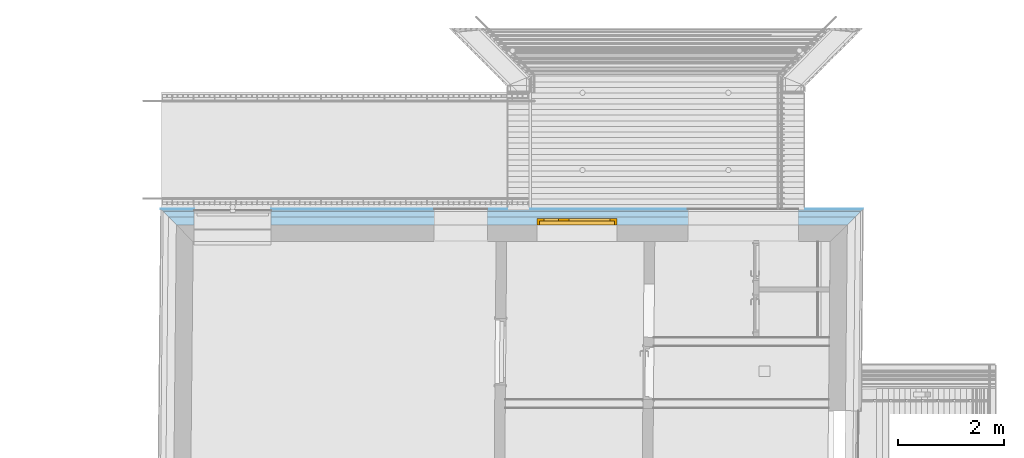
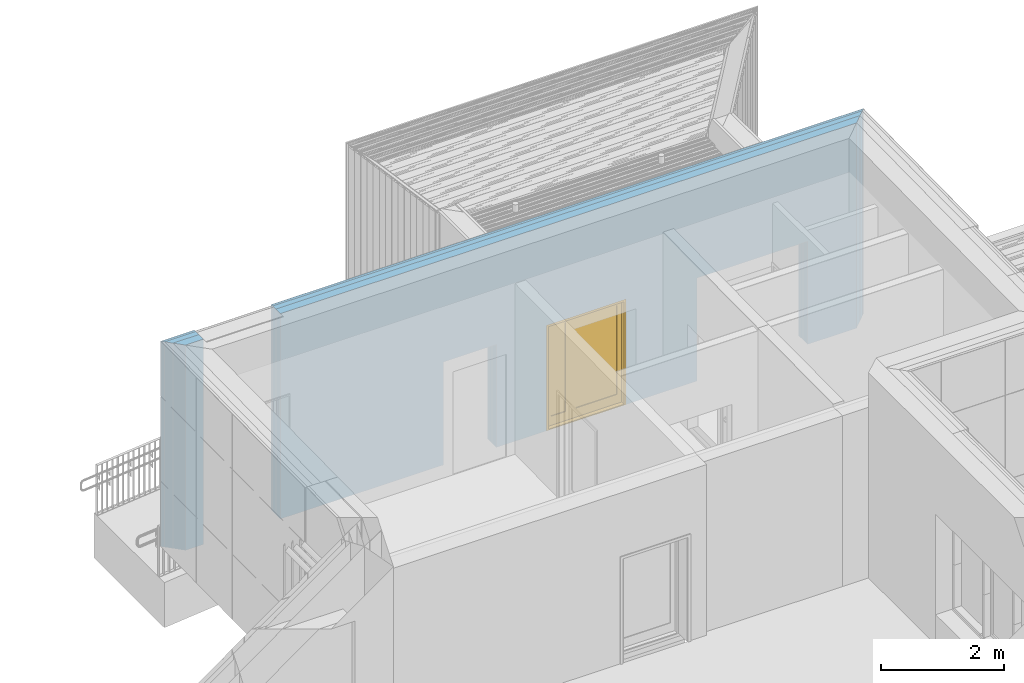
# One storey, part 133 of 418: 1 door, 15 openings, 1 element without a shape of its own, plus 4 elements that do not belong to this part.
"""IFC2X3 building model written with IfcOpenShell, lengths in millimetres."""

from ifc_helpers import new_model, entity, si_unit, converted_unit, derived_unit, money_unit, direction, frame, origin_with_axes, origin_2d_with_axis, place, context, subcontext, project, spatial, polyline, rectangle, outline, extrude, open_shell, faceted_brep, surface_model, material, type_object, element, fill, aggregate, save


model = new_model("IFC2X3")

# Units and contexts
model_context = context("Model", 3, precision=0.01, world=origin_with_axes(), true_north=direction((0.0, 1.0)))
body_context = subcontext(model_context, "Body", "Model", "MODEL_VIEW")
ifc_project = project(units=[si_unit("LENGTHUNIT", "METRE", prefix="MILLI"), si_unit("AREAUNIT", "SQUARE_METRE"), si_unit("VOLUMEUNIT", "CUBIC_METRE"), converted_unit("PLANEANGLEUNIT", "DEGREE", entity("IfcPlaneAngleMeasure", 0.0174532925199), si_unit("PLANEANGLEUNIT", "RADIAN"), dimensions=[0, 0, 0, 0, 0, 0, 0]), si_unit("SOLIDANGLEUNIT", "STERADIAN"), money_unit("EUR"), converted_unit("TIMEUNIT", "Year", entity("IfcTimeMeasure", 31556926.0), si_unit("TIMEUNIT", "SECOND"), dimensions=[0, 0, 1, 0, 0, 0, 0]), si_unit("MASSUNIT", "GRAM", prefix="KILO"), si_unit("THERMODYNAMICTEMPERATUREUNIT", "DEGREE_CELSIUS"), si_unit("LUMINOUSINTENSITYUNIT", "LUMEN"), si_unit("ENERGYUNIT", "JOULE", prefix="MEGA"), derived_unit("THERMALCONDUCTANCEUNIT", [(si_unit("POWERUNIT", "WATT"), 1), (si_unit("LENGTHUNIT", "METRE"), -1), (si_unit("THERMODYNAMICTEMPERATUREUNIT", "KELVIN"), -1)]), derived_unit("SPECIFICHEATCAPACITYUNIT", [(si_unit("ENERGYUNIT", "JOULE"), 1), (si_unit("MASSUNIT", "GRAM", prefix="KILO"), -1), (si_unit("THERMODYNAMICTEMPERATUREUNIT", "KELVIN"), -1)]), derived_unit("MASSDENSITYUNIT", [(si_unit("MASSUNIT", "GRAM", prefix="KILO"), 1), (si_unit("VOLUMEUNIT", "CUBIC_METRE"), -1)])], contexts=[model_context])

# Site, building, storey
site_placement = place(None, origin_with_axes())
site = spatial("IfcSite", under=ifc_project, at=site_placement, Name="Paldiski mnt 245/1, Tallinn, Harjumaa", CompositionType="COMPLEX")
building_placement = place(site_placement, origin_with_axes())
building = spatial("IfcBuilding", under=site, at=building_placement, Name="RKAS Hoone üldnimetus (kasutust iseloomustav) -> IFC Project Manager -> SOLIBRI", CompositionType="ELEMENT")
storey_placement = place(building_placement, origin_with_axes())
storey = spatial("IfcBuildingStorey", under=building, at=storey_placement, Name="Esimene korrus", CompositionType="ELEMENT", Elevation=0.0)

# Door
door_style = type_object("IfcDoorStyle", Name="Double Door Asymmetric 23", ConstructionType="NOTDEFINED", OperationType="DOUBLE_DOOR_SINGLE_SWING", ParameterTakesPrecedence=False, Sizeable=False)
wall_placement = place(storey_placement, frame((-59646.0974385, 36089.8287244, 0.0), z_axis=(0.0, 0.0, 1.0), x_axis=(1.0, 0.0, 0.0)))
opening_13_placement = place(wall_placement, frame((7546.97652884, -1.84741111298e-10, 0.0), z_axis=(0.0, 0.0, 1.0), x_axis=(1.0, 0.0, 0.0)))
door_placement = place(opening_13_placement, frame((-750.0, 0.0, 0.0), z_axis=(0.0, 0.0, 1.0), x_axis=(1.0, 0.0, 0.0)))
door = element("IfcDoor", 1, at=door_placement, inside=storey, type_object=door_style, Name="VU-05v", ObjectType="DOOR", OverallHeight=2100.0, OverallWidth=1500.0, context=body_context, shape_type="SurfaceModel", body=[
    faceted_brep([(1460.0, 1.98951966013e-10, 0.0), (1460.0, 75.0000000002, 0.0), (1460.0, 75.0000000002, 20.0), (1460.0, 1.98951966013e-10, 20.0), (40.0, 1.63424829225e-10, 0.0), (40.0, 75.0000000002, 0.0), (28.0, 75.0000000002, 0.0), (1472.0, 75.0000000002, 0.0), (1472.0, 75.0000000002, 20.0), (28.0, 75.0000000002, 20.0), (40.0, 75.0000000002, 20.0), (40.0, 1.63424829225e-10, 20.0)], [[[0, 1, 2, 3]], [[0, 4, 5, 6, 7, 1]], [[1, 7, 8, 2]], [[3, 2, 8, 9, 10, 11]], [[4, 0, 3, 11]], [[5, 4, 11, 10]], [[6, 5, 10, 9]], [[7, 6, 9, 8]]]),
    faceted_brep([(40.0, 75.0000000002, 0.0), (40.0, 75.0000000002, 2060.0), (40.0, 1.63424829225e-10, 2060.0), (40.0, 1.63424829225e-10, 0.0), (28.0, 75.0000000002, 2060.0), (28.0, 75.0000000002, 0.0), (28.0, 115.0, 2060.0), (0.0, 115.0, 2060.0), (0.0, 1.63424829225e-10, 2060.0), (0.0, 1.63424829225e-10, 0.0), (0.0, 115.0, 0.0), (28.0, 115.0, 0.0)], [[[0, 1, 2, 3]], [[4, 1, 0, 5]], [[4, 6, 7, 8, 2, 1]], [[3, 2, 8, 9]], [[5, 0, 3, 9, 10, 11]], [[6, 4, 5, 11]], [[6, 11, 10, 7]], [[10, 9, 8, 7]]]),
    faceted_brep([(1472.0, 75.0000000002, 2060.0), (1460.0, 75.0000000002, 2060.0), (1460.0, 1.98951966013e-10, 2060.0), (1500.0, 1.98951966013e-10, 2060.0), (1500.0, 115.0, 2060.0), (1472.0, 115.0, 2060.0), (1472.0, 75.0000000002, 0.0), (1460.0, 75.0000000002, 0.0), (1460.0, 1.98951966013e-10, 0.0), (1500.0, 1.98951966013e-10, 0.0), (1500.0, 115.0, 0.0), (1472.0, 115.0, 0.0)], [[[0, 1, 2, 3, 4, 5]], [[1, 0, 6, 7]], [[1, 7, 8, 2]], [[3, 2, 8, 9]], [[4, 3, 9, 10]], [[11, 5, 4, 10]], [[0, 5, 11, 6]], [[6, 11, 10, 9, 8, 7]]]),
    faceted_brep([(28.0, 115.0, 2072.0), (28.0, 115.0, 2060.0), (0.0, 115.0, 2060.0), (0.0, 115.0, 2100.0), (1500.0, 115.0, 2100.0), (1500.0, 115.0, 2060.0), (1472.0, 115.0, 2060.0), (1472.0, 115.0, 2072.0), (28.0, 75.0000000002, 2072.0), (28.0, 75.0000000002, 2060.0), (40.0, 75.0000000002, 2060.0), (40.0, 1.63424829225e-10, 2060.0), (0.0, 1.63424829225e-10, 2060.0), (0.0, 1.63424829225e-10, 2100.0), (1500.0, 1.98951966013e-10, 2100.0), (1500.0, 1.98951966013e-10, 2060.0), (1472.0, 75.0000000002, 2060.0), (1460.0, 1.98951966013e-10, 2060.0), (1460.0, 75.0000000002, 2060.0), (1472.0, 75.0000000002, 2072.0)], [[[0, 1, 2, 3, 4, 5, 6, 7]], [[1, 0, 8, 9]], [[9, 10, 11, 12, 2, 1]], [[2, 12, 13, 3]], [[3, 13, 14, 4]], [[4, 14, 15, 5]], [[16, 6, 5, 15, 17, 18]], [[7, 6, 16, 19]], [[0, 7, 19, 8]], [[16, 18, 10, 9, 8, 19]], [[10, 18, 17, 11]], [[17, 15, 14, 13, 12, 11]]]),
    faceted_brep([(1472.0, 115.0, 200.0), (1472.0, 75.0000000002, 200.0), (1372.0, 75.0000000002, 200.0), (1372.0, 115.0, 200.0), (1472.0, 115.0, 1972.0), (1472.0, 75.0000000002, 1972.0), (1372.0, 75.0000000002, 1972.0), (1372.0, 115.0, 1972.0)], [[[0, 1, 2, 3]], [[4, 5, 1, 0]], [[1, 5, 6, 2]], [[3, 2, 6, 7]], [[0, 3, 7, 4]], [[7, 6, 5, 4]]]),
    faceted_brep([(500.0, 115.0, 200.0), (500.0, 75.0000000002, 200.0), (500.0, 75.0000000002, 1972.0), (500.0, 115.0, 1972.0), (600.0, 115.0, 200.0), (600.0, 75.0000000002, 200.0), (600.0, 75.0000000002, 1972.0), (600.0, 115.0, 1972.0)], [[[0, 1, 2, 3]], [[4, 5, 1, 0]], [[1, 5, 6, 2]], [[3, 2, 6, 7]], [[0, 3, 7, 4]], [[7, 6, 5, 4]]]),
    faceted_brep([(1472.0, 115.0, 0.0), (1472.0, 75.0000000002, 0.0), (500.0, 75.0000000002, 0.0), (500.0, 115.0, 0.0), (1472.0, 115.0, 200.0), (1472.0, 75.0000000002, 200.0), (1372.0, 75.0000000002, 200.0), (600.0, 75.0000000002, 200.0), (500.0, 75.0000000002, 200.0), (500.0, 115.0, 200.0), (600.0, 115.0, 200.0), (1372.0, 115.0, 200.0)], [[[0, 1, 2, 3]], [[4, 5, 1, 0]], [[1, 5, 6, 7, 8, 2]], [[3, 2, 8, 9]], [[0, 3, 9, 10, 11, 4]], [[11, 6, 5, 4]], [[10, 7, 6, 11]], [[9, 8, 7, 10]]]),
    faceted_brep([(1472.0, 115.0, 2072.0), (1472.0, 75.0000000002, 2072.0), (1472.0, 75.0000000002, 1972.0), (1472.0, 115.0, 1972.0), (500.0, 115.0, 2072.0), (500.0, 75.0000000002, 2072.0), (500.0, 75.0000000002, 1972.0), (600.0, 75.0000000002, 1972.0), (1372.0, 75.0000000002, 1972.0), (1372.0, 115.0, 1972.0), (600.0, 115.0, 1972.0), (500.0, 115.0, 1972.0)], [[[0, 1, 2, 3]], [[4, 5, 1, 0]], [[1, 5, 6, 7, 8, 2]], [[3, 2, 8, 9]], [[0, 3, 9, 10, 11, 4]], [[11, 6, 5, 4]], [[10, 7, 6, 11]], [[9, 8, 7, 10]]]),
    surface_model("IfcShellBasedSurfaceModel", [(1372.0, 101.0, 200.0), (600.0, 101.0, 200.0), (600.0, 101.0, 1972.0), (1372.0, 101.0, 1972.0)], [open_shell([[[0, 1, 2, 3]]])]),
    surface_model("IfcShellBasedSurfaceModel", [(1372.0, 89.0000000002, 200.0), (1372.0, 89.0000000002, 1972.0), (600.0, 89.0000000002, 1972.0), (600.0, 89.0000000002, 200.0)], [open_shell([[[0, 1, 2, 3]]])]),
    faceted_brep([(28.0, 115.0, 200.0), (128.0, 115.0, 200.0), (128.0, 75.0000000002, 200.0), (28.0, 75.0000000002, 200.0), (28.0, 115.0, 1972.0), (128.0, 115.0, 1972.0), (128.0, 75.0000000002, 1972.0), (28.0, 75.0000000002, 1972.0)], [[[0, 1, 2, 3]], [[0, 4, 5, 1]], [[1, 5, 6, 2]], [[3, 2, 6, 7]], [[4, 0, 3, 7]], [[5, 4, 7, 6]]]),
    faceted_brep([(500.0, 115.0, 200.0), (500.0, 115.0, 1972.0), (500.0, 75.0000000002, 1972.0), (500.0, 75.0000000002, 200.0), (400.0, 115.0, 200.0), (400.0, 115.0, 1972.0), (400.0, 75.0000000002, 1972.0), (400.0, 75.0000000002, 200.0)], [[[0, 1, 2, 3]], [[0, 4, 5, 1]], [[1, 5, 6, 2]], [[3, 2, 6, 7]], [[4, 0, 3, 7]], [[5, 4, 7, 6]]]),
    faceted_brep([(28.0, 115.0, 0.0), (500.0, 115.0, 0.0), (500.0, 75.0000000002, 0.0), (28.0, 75.0000000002, 0.0), (28.0, 115.0, 200.0), (128.0, 115.0, 200.0), (400.0, 115.0, 200.0), (500.0, 115.0, 200.0), (500.0, 75.0000000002, 200.0), (400.0, 75.0000000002, 200.0), (128.0, 75.0000000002, 200.0), (28.0, 75.0000000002, 200.0)], [[[0, 1, 2, 3]], [[0, 4, 5, 6, 7, 1]], [[1, 7, 8, 2]], [[3, 2, 8, 9, 10, 11]], [[4, 0, 3, 11]], [[5, 4, 11, 10]], [[6, 5, 10, 9]], [[7, 6, 9, 8]]]),
    faceted_brep([(28.0, 115.0, 2072.0), (28.0, 115.0, 1972.0), (28.0, 75.0000000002, 1972.0), (28.0, 75.0000000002, 2072.0), (500.0, 115.0, 2072.0), (500.0, 115.0, 1972.0), (400.0, 115.0, 1972.0), (128.0, 115.0, 1972.0), (128.0, 75.0000000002, 1972.0), (400.0, 75.0000000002, 1972.0), (500.0, 75.0000000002, 1972.0), (500.0, 75.0000000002, 2072.0)], [[[0, 1, 2, 3]], [[0, 4, 5, 6, 7, 1]], [[1, 7, 8, 2]], [[3, 2, 8, 9, 10, 11]], [[4, 0, 3, 11]], [[5, 4, 11, 10]], [[6, 5, 10, 9]], [[7, 6, 9, 8]]]),
    surface_model("IfcShellBasedSurfaceModel", [(128.0, 101.0, 200.0), (128.0, 101.0, 1972.0), (400.0, 101.0, 1972.0), (400.0, 101.0, 200.0)], [open_shell([[[0, 1, 2, 3]]])]),
    surface_model("IfcShellBasedSurfaceModel", [(128.0, 89.0000000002, 200.0), (400.0, 89.0000000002, 200.0), (400.0, 89.0000000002, 1972.0), (128.0, 89.0000000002, 1972.0)], [open_shell([[[0, 1, 2, 3]]])]),
])

# Wall, openings
wall_type = type_object("IfcWallType", Name="VS-03C_uued_kihid 300", PredefinedType="NOTDEFINED")
wall = element("IfcWall", 2, at=wall_placement, inside=storey, type_object=wall_type, Name="VS-03")
opening_1_placement = place(wall_placement, frame((2986.7901126, 0.0, 0.0), z_axis=(0.0, 0.0, 1.0), x_axis=(1.0, 0.0, 0.0)))
element("IfcOpeningElement", 3, at=opening_1_placement, cuts=wall, Name="Cembrit fassaadiplaadi vuuk", context=body_context, shape_type="SweptSolid", body=[
    extrude(outline(polyline([(-4.0, 0.0), (4.0, 0.0), (4.0, 4090.0), (-4.0, 4090.0), (-4.0, 0.0)])), frame((0.0, 292.0, 0.0), z_axis=(0.0, -1.0, 0.0), x_axis=(1.0, 0.0, 0.0)), (0.0, 0.0, -1.0), 308.0),
])
opening_2_placement = place(wall_placement, frame((4186.7901126, 0.0, 0.0), z_axis=(0.0, 0.0, 1.0), x_axis=(1.0, 0.0, 0.0)))
element("IfcOpeningElement", 4, at=opening_2_placement, cuts=wall, Name="Cembrit fassaadiplaadi vuuk", context=body_context, shape_type="SweptSolid", body=[
    extrude(outline(polyline([(-4.0, 0.0), (4.0, 0.0), (4.0, 4090.0), (-4.0, 4090.0), (-4.0, 0.0)])), frame((0.0, 292.0, 0.0), z_axis=(0.0, -1.0, 0.0), x_axis=(1.0, 0.0, 0.0)), (0.0, 0.0, -1.0), 308.0),
])
opening_3_placement = place(wall_placement, frame((5386.7901126, -1.27897692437e-10, 0.0), z_axis=(0.0, 0.0, 1.0), x_axis=(1.0, 0.0, 0.0)))
element("IfcOpeningElement", 5, at=opening_3_placement, cuts=wall, Name="Cembrit fassaadiplaadi vuuk", context=body_context, shape_type="SweptSolid", body=[
    extrude(outline(polyline([(-4.0, 0.0), (4.0, 0.0), (4.0, 4090.0), (-4.0, 4090.0), (-4.0, 0.0)])), frame((0.0, 292.0, 0.0), z_axis=(0.0, -1.0, 0.0), x_axis=(1.0, 0.0, 0.0)), (0.0, 0.0, -1.0), 308.0),
])
opening_4_placement = place(wall_placement, frame((6586.7901126, -1.56319401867e-10, 0.0), z_axis=(0.0, 0.0, 1.0), x_axis=(1.0, 0.0, 0.0)))
element("IfcOpeningElement", 6, at=opening_4_placement, cuts=wall, Name="Cembrit fassaadiplaadi vuuk", context=body_context, shape_type="SweptSolid", body=[
    extrude(outline(polyline([(-4.0, 0.0), (4.0, 0.0), (4.0, 4090.0), (-4.0, 4090.0), (-4.0, 0.0)])), frame((0.0, 292.0, 0.0), z_axis=(0.0, -1.0, 0.0), x_axis=(1.0, 0.0, 0.0)), (0.0, 0.0, -1.0), 308.0),
])
opening_5_placement = place(wall_placement, frame((7786.7901126, -1.84741111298e-10, 0.0), z_axis=(0.0, 0.0, 1.0), x_axis=(1.0, 0.0, 0.0)))
element("IfcOpeningElement", 7, at=opening_5_placement, cuts=wall, Name="Cembrit fassaadiplaadi vuuk", context=body_context, shape_type="SweptSolid", body=[
    extrude(outline(polyline([(-4.0, 0.0), (4.0, 0.0), (4.0, 4090.0), (-4.0, 4090.0), (-4.0, 0.0)])), frame((0.0, 292.0, 0.0), z_axis=(0.0, -1.0, 0.0), x_axis=(1.0, 0.0, 0.0)), (0.0, 0.0, -1.0), 308.0),
])
opening_6_placement = place(wall_placement, frame((8986.7901126, -2.20268248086e-10, 0.0), z_axis=(0.0, 0.0, 1.0), x_axis=(1.0, 0.0, 0.0)))
element("IfcOpeningElement", 8, at=opening_6_placement, cuts=wall, Name="Cembrit fassaadiplaadi vuuk", context=body_context, shape_type="SweptSolid", body=[
    extrude(outline(polyline([(-4.0, 0.0), (4.0, 0.0), (4.0, 4090.0), (-4.0, 4090.0), (-4.0, 0.0)])), frame((0.0, 292.0, 0.0), z_axis=(0.0, -1.0, 0.0), x_axis=(1.0, 0.0, 0.0)), (0.0, 0.0, -1.0), 308.0),
])
opening_7_placement = place(wall_placement, frame((10186.7901126, -2.48689957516e-10, 0.0), z_axis=(0.0, 0.0, 1.0), x_axis=(1.0, 0.0, 0.0)))
element("IfcOpeningElement", 9, at=opening_7_placement, cuts=wall, Name="Cembrit fassaadiplaadi vuuk", context=body_context, shape_type="SweptSolid", body=[
    extrude(outline(polyline([(-4.0, 0.0), (4.0, 0.0), (4.0, 4090.0), (-4.0, 4090.0), (-4.0, 0.0)])), frame((0.0, 292.0, 0.0), z_axis=(0.0, -1.0, 0.0), x_axis=(1.0, 0.0, 0.0)), (0.0, 0.0, -1.0), 308.0),
])
opening_8_placement = place(wall_placement, frame((11386.7901126, -2.77111666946e-10, 0.0), z_axis=(0.0, 0.0, 1.0), x_axis=(1.0, 0.0, 0.0)))
element("IfcOpeningElement", 10, at=opening_8_placement, cuts=wall, Name="Cembrit fassaadiplaadi vuuk", context=body_context, shape_type="SweptSolid", body=[
    extrude(outline(polyline([(-4.0, 0.0), (4.0, 0.0), (4.0, 4090.0), (-4.0, 4090.0), (-4.0, 0.0)])), frame((0.0, 292.0, 0.0), z_axis=(0.0, -1.0, 0.0), x_axis=(1.0, 0.0, 0.0)), (0.0, 0.0, -1.0), 308.0),
])
opening_9_placement = place(wall_placement, frame((12586.7901126, -3.05533376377e-10, 0.0), z_axis=(0.0, 0.0, 1.0), x_axis=(1.0, 0.0, 0.0)))
element("IfcOpeningElement", 11, at=opening_9_placement, cuts=wall, Name="Cembrit fassaadiplaadi vuuk", context=body_context, shape_type="SweptSolid", body=[
    extrude(outline(polyline([(-4.0, 0.0), (4.0, 0.0), (4.0, 4090.0), (-4.0, 4090.0), (-4.0, 0.0)])), frame((0.0, 292.0, 0.0), z_axis=(0.0, -1.0, 0.0), x_axis=(1.0, 0.0, 0.0)), (0.0, 0.0, -1.0), 308.0),
])
opening_10_placement = place(wall_placement, frame((6323.34573533, -1.56319401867e-10, 1298.0), z_axis=(0.0, 0.0, 1.0), x_axis=(1.0, 0.0, 0.0)))
element("IfcOpeningElement", 12, at=opening_10_placement, cuts=wall, Name="Cembrit fassaadiplaadi vuuk", context=body_context, shape_type="SweptSolid", body=[
    extrude(outline(polyline([(-6620.33643567, 0.0), (6620.33643567, 0.0), (6620.33643567, 8.0), (-6620.33643567, 8.0), (-6620.33643567, 0.0)])), frame((0.0, 292.0, 0.0), z_axis=(0.0, -1.0, 0.0), x_axis=(1.0, 0.0, 0.0)), (0.0, 0.0, -1.0), 308.0),
])
opening_11_placement = place(wall_placement, frame((6323.34573533, -1.56319401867e-10, 2990.0), z_axis=(0.0, 0.0, 1.0), x_axis=(1.0, 0.0, 0.0)))
element("IfcOpeningElement", 13, at=opening_11_placement, cuts=wall, Name="Cembrit fassaadiplaadi vuuk", context=body_context, shape_type="SweptSolid", body=[
    extrude(outline(polyline([(-6620.33643567, 0.0), (6620.33643567, 0.0), (6620.33643567, 8.0), (-6620.33643567, 8.0), (-6620.33643567, 0.0)])), frame((0.0, 292.0, 0.0), z_axis=(0.0, -1.0, 0.0), x_axis=(1.0, 0.0, 0.0)), (0.0, 0.0, -1.0), 308.0),
])
opening_12_placement = place(wall_placement, frame((10676.9765288, -2.55795384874e-10, -50.0), z_axis=(0.0, 0.0, 1.0), x_axis=(1.0, 0.0, 0.0)))
element("IfcOpeningElement", 14, at=opening_12_placement, cuts=wall, Name="Uks", context=body_context, shape_type="SweptSolid", body=[
    extrude(rectangle(XDim=2080.0, YDim=2100.0, at=origin_2d_with_axis()), frame((0.0, 2.55795384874e-10, 1050.0), z_axis=(0.0, 1.0, 0.0), x_axis=(1.0, 0.0, 0.0)), (0.0, 0.0, -1.0), 300.0),
    extrude(rectangle(XDim=2080.0, YDim=2100.0, at=origin_2d_with_axis()), frame((0.0, 2.55795384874e-10, 1050.0), z_axis=(0.0, -1.0, 0.0), x_axis=(1.0, 0.0, 0.0)), (0.0, 0.0, -1.0), 300.0),
])
opening_13 = element("IfcOpeningElement", 15, at=opening_13_placement, cuts=wall, Name="VU-05v", context=body_context, shape_type="SweptSolid", body=[
    extrude(rectangle(XDim=1500.0, YDim=2100.0, at=origin_2d_with_axis()), frame((0.0, 300.0, 1050.0), z_axis=(0.0, -1.0, 0.0), x_axis=(1.0, 0.0, 0.0)), (0.0, 0.0, 1.0), 900.0),
])

fill(opening_13, door)

# Opening
opening_14_placement = place(wall_placement, frame((5357.39992515, -1.27897692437e-10, -50.0), z_axis=(0.0, 0.0, 1.0), x_axis=(1.0, 0.0, 0.0)))
element("IfcOpeningElement", 16, at=opening_14_placement, cuts=wall, Name="Uks", context=body_context, shape_type="SweptSolid", body=[
    extrude(rectangle(XDim=1000.0, YDim=2100.0, at=origin_2d_with_axis()), frame((0.0, 1.27897692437e-10, 1050.0), z_axis=(0.0, 1.0, 0.0), x_axis=(1.0, 0.0, 0.0)), (0.0, 0.0, -1.0), 300.0),
    extrude(rectangle(XDim=1000.0, YDim=2100.0, at=origin_2d_with_axis()), frame((0.0, 1.27897692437e-10, 1050.0), z_axis=(0.0, -1.0, 0.0), x_axis=(1.0, 0.0, 0.0)), (0.0, 0.0, -1.0), 300.0),
])

opening_15_placement = place(wall_placement, frame((59646.0974385, -36089.8287244, 0.0), z_axis=(0.0, 0.0, 1.0), x_axis=(1.0, 0.0, 0.0)))
element("IfcOpeningElement", 17, at=opening_15_placement, cuts=wall, Name="AVA", ObjectType="OPENING", context=body_context, shape_type="SweptSolid", body=[
    extrude(rectangle(XDim=1450.0, YDim=4090.0, at=origin_2d_with_axis()), frame((-58584.3073581, 36089.8287244, 2045.0), z_axis=(0.0, -1.0, 0.0), x_axis=(1.0, 0.0, 0.0)), (0.0, 0.0, -1.0), 600.0),
])

# Building element part
ifc_material_1 = material(Name="Cembrit_C040")
building_element_part_1_placement = place(wall_placement, origin_with_axes())
building_element_part_1 = element("IfcBuildingElementPart", 18, at=building_element_part_1_placement, material=ifc_material_1, Name="Cembrit_C040", context=body_context, shape_type="SweptSolid", body=[
    extrude(outline(polyline([(-289.070948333, 292.0), (12935.6011098, 292.0), (12943.682171, 300.0), (-296.990700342, 300.0), (-289.070948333, 292.0)])), origin_with_axes(), (0.0, 0.0, 1.0), 4090.0),
])

ifc_material_2 = material(Name="VKR-06_Õhkvahe")
building_element_part_2_placement = place(wall_placement, origin_with_axes())
building_element_part_2 = element("IfcBuildingElementPart", 19, at=building_element_part_2_placement, material=ifc_material_2, Name="VKR-06_Õhkvahe", context=body_context, shape_type="SweptSolid", body=[
    extrude(outline(polyline([(-247.492250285, 250.0), (12893.1755383, 250.0), (12935.6011098, 292.0), (-289.070948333, 292.0), (-247.492250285, 250.0)])), origin_with_axes(), (0.0, 0.0, 1.0), 4090.0),
])

ifc_material_3 = material(Name="Kingspan Kooltherm")
building_element_part_3_placement = place(wall_placement, origin_with_axes())
building_element_part_3 = element("IfcBuildingElementPart", 20, at=building_element_part_3_placement, material=ifc_material_3, Name="Kingspan Kooltherm", context=body_context, shape_type="SweptSolid", body=[
    extrude(outline(polyline([(-148.495350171, 150.0), (12792.1622728, 150.0), (12893.1755383, 250.0), (-247.492250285, 250.0), (-148.495350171, 150.0)])), origin_with_axes(), (0.0, 0.0, 1.0), 4090.0),
])

building_element_part_4_placement = place(wall_placement, origin_with_axes())
building_element_part_4 = element("IfcBuildingElementPart", 21, at=building_element_part_4_placement, material=ifc_material_3, Name="Kingspan Kooltherm", context=body_context, shape_type="SweptSolid", body=[
    extrude(outline(polyline([(0.0, 0.0), (12640.6423746, 0.0), (12792.1622728, 150.0), (-148.495350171, 150.0), (0.0, 0.0)])), origin_with_axes(), (0.0, 0.0, 1.0), 4090.0),
])

aggregate(wall, [building_element_part_1, building_element_part_2, building_element_part_3, building_element_part_4])

save(model, "model.ifc")
